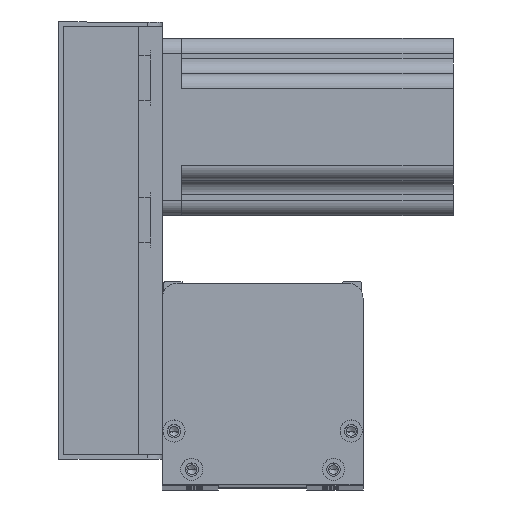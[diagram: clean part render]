
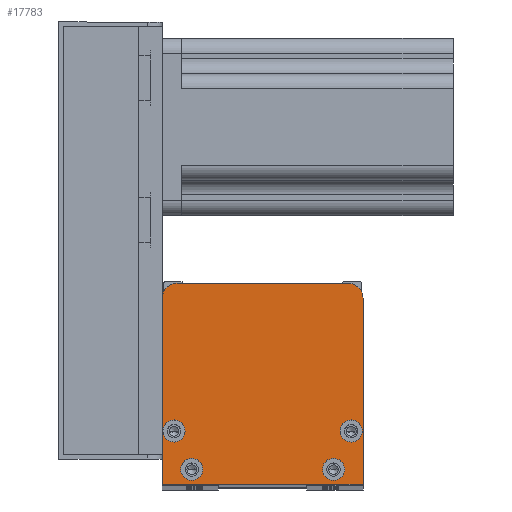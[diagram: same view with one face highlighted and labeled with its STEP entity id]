
A CAD part, top view. The second image highlights one B-rep face of the part: STEP entity #17783.
In plain terms, the highlighted planar face has unit normal (0, 0, 1) as drawn and (0, 0, -1) by its records, which use the part's own axes.
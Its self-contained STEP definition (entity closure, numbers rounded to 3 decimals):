
#43 = CARTESIAN_POINT ( 'NONE',  ( 68., 0., 0. ) ) ;
#72 = CARTESIAN_POINT ( 'NONE',  ( 68., 68., 0. ) ) ;
#83 = CARTESIAN_POINT ( 'NONE',  ( 0., 0., 0. ) ) ;
#94 = CARTESIAN_POINT ( 'NONE',  ( 68., 63., 0. ) ) ;
#663 = CARTESIAN_POINT ( 'NONE',  ( 63., 68., 0. ) ) ;
#1047 = AXIS2_PLACEMENT_3D ( 'NONE', #22007, #10575, #24081 ) ;
#1053 = FACE_BOUND ( 'NONE', #18833, .T. ) ;
#1251 = EDGE_CURVE ( 'NONE', #14463, #27652, #20963, .T. ) ;
#1417 = DIRECTION ( 'NONE',  ( -1., 0., 0. ) ) ;
#1700 = LINE ( 'NONE', #3826, #26793 ) ;
#1757 = CARTESIAN_POINT ( 'NONE',  ( 7.75, 18., 0. ) ) ;
#1935 = VERTEX_POINT ( 'NONE', #15410 ) ;
#2201 = DIRECTION ( 'NONE',  ( 0., 0., 1. ) ) ;
#2456 = DIRECTION ( 'NONE',  ( -1., 0., 0. ) ) ;
#2610 = EDGE_CURVE ( 'NONE', #27652, #14463, #6762, .T. ) ;
#2719 = ORIENTED_EDGE ( 'NONE', *, *, #15992, .F. ) ;
#2815 = FACE_BOUND ( 'NONE', #16933, .T. ) ;
#3012 = CIRCLE ( 'NONE', #22512, 3.75 ) ;
#3275 = VERTEX_POINT ( 'NONE', #13002 ) ;
#3403 = EDGE_CURVE ( 'NONE', #1935, #27878, #25762, .T. ) ;
#3610 = AXIS2_PLACEMENT_3D ( 'NONE', #10550, #19115, #1417 ) ;
#3743 = VERTEX_POINT ( 'NONE', #17726 ) ;
#3826 = CARTESIAN_POINT ( 'NONE',  ( 0., 0., 0. ) ) ;
#4189 = DIRECTION ( 'NONE',  ( -1., 0., 0. ) ) ;
#4223 = EDGE_LOOP ( 'NONE', ( #9486, #26319, #27322, #25000, #12390, #2719 ) ) ;
#4308 = LINE ( 'NONE', #43, #15612 ) ;
#4545 = CARTESIAN_POINT ( 'NONE',  ( 4., 18., 0. ) ) ;
#4589 = CIRCLE ( 'NONE', #7392, 3.75 ) ;
#4636 = DIRECTION ( 'NONE',  ( 0., 1., 0. ) ) ;
#5418 = LINE ( 'NONE', #72, #27292 ) ;
#6140 = LINE ( 'NONE', #17449, #13904 ) ;
#6227 = EDGE_CURVE ( 'NONE', #13279, #25009, #4308, .T. ) ;
#6667 = CARTESIAN_POINT ( 'NONE',  ( 13.75, 5., 0. ) ) ;
#6743 = CARTESIAN_POINT ( 'NONE',  ( 54.25, 5., 0. ) ) ;
#6762 = CIRCLE ( 'NONE', #9128, 3.75 ) ;
#6806 = DIRECTION ( 'NONE',  ( 1., 0., 0. ) ) ;
#6882 = VERTEX_POINT ( 'NONE', #8449 ) ;
#7011 = CARTESIAN_POINT ( 'NONE',  ( 5., 68., 0. ) ) ;
#7037 = DIRECTION ( 'NONE',  ( -1., 0., 0. ) ) ;
#7060 = VERTEX_POINT ( 'NONE', #6667 ) ;
#7090 = FACE_OUTER_BOUND ( 'NONE', #4223, .T. ) ;
#7315 = CARTESIAN_POINT ( 'NONE',  ( 68., 0., 0. ) ) ;
#7392 = AXIS2_PLACEMENT_3D ( 'NONE', #4545, #27131, #22607 ) ;
#7955 = DIRECTION ( 'NONE',  ( -1., 0., 0. ) ) ;
#7965 = EDGE_CURVE ( 'NONE', #3275, #19634, #8852, .T. ) ;
#8052 = DIRECTION ( 'NONE',  ( 0., 0., -1. ) ) ;
#8236 = VERTEX_POINT ( 'NONE', #663 ) ;
#8449 = CARTESIAN_POINT ( 'NONE',  ( 0.25, 18., 0. ) ) ;
#8852 = CIRCLE ( 'NONE', #27731, 5. ) ;
#9128 = AXIS2_PLACEMENT_3D ( 'NONE', #28459, #8052, #7955 ) ;
#9486 = ORIENTED_EDGE ( 'NONE', *, *, #19993, .F. ) ;
#9622 = CIRCLE ( 'NONE', #16026, 3.75 ) ;
#10222 = EDGE_CURVE ( 'NONE', #8236, #25009, #28839, .T. ) ;
#10528 = CARTESIAN_POINT ( 'NONE',  ( 58., 5., 0. ) ) ;
#10550 = CARTESIAN_POINT ( 'NONE',  ( 10., 5., 0. ) ) ;
#10575 = DIRECTION ( 'NONE',  ( 0., 0., -1. ) ) ;
#11081 = CIRCLE ( 'NONE', #1047, 3.75 ) ;
#11195 = PLANE ( 'NONE',  #22863 ) ;
#11226 = ORIENTED_EDGE ( 'NONE', *, *, #22704, .F. ) ;
#12390 = ORIENTED_EDGE ( 'NONE', *, *, #6227, .F. ) ;
#13002 = CARTESIAN_POINT ( 'NONE',  ( 0., 63., 0. ) ) ;
#13145 = VERTEX_POINT ( 'NONE', #1757 ) ;
#13279 = VERTEX_POINT ( 'NONE', #7315 ) ;
#13904 = VECTOR ( 'NONE', #6806, 1000. ) ;
#14463 = VERTEX_POINT ( 'NONE', #19228 ) ;
#14953 = AXIS2_PLACEMENT_3D ( 'NONE', #23342, #18875, #23442 ) ;
#15410 = CARTESIAN_POINT ( 'NONE',  ( 60.25, 18., 0. ) ) ;
#15552 = FACE_BOUND ( 'NONE', #19353, .T. ) ;
#15612 = VECTOR ( 'NONE', #4636, 1000. ) ;
#15869 = EDGE_CURVE ( 'NONE', #27247, #7060, #11081, .T. ) ;
#15992 = EDGE_CURVE ( 'NONE', #3743, #13279, #6140, .T. ) ;
#15996 = CARTESIAN_POINT ( 'NONE',  ( 64., 18., 0. ) ) ;
#16026 = AXIS2_PLACEMENT_3D ( 'NONE', #26574, #26478, #4189 ) ;
#16933 = EDGE_LOOP ( 'NONE', ( #23859, #17288 ) ) ;
#17079 = EDGE_CURVE ( 'NONE', #13145, #6882, #9622, .T. ) ;
#17288 = ORIENTED_EDGE ( 'NONE', *, *, #1251, .F. ) ;
#17311 = DIRECTION ( 'NONE',  ( 0., 0., -1. ) ) ;
#17449 = CARTESIAN_POINT ( 'NONE',  ( 68., 0., 0. ) ) ;
#17726 = CARTESIAN_POINT ( 'NONE',  ( 0., 0., 0. ) ) ;
#17783 = ADVANCED_FACE ( 'NONE', ( #1053, #27551, #15552, #2815, #7090 ), #11195, .F. ) ;
#17794 = AXIS2_PLACEMENT_3D ( 'NONE', #10528, #17311, #22059 ) ;
#18081 = DIRECTION ( 'NONE',  ( 1., 0., 0. ) ) ;
#18082 = EDGE_LOOP ( 'NONE', ( #22666, #20840 ) ) ;
#18833 = EDGE_LOOP ( 'NONE', ( #18916, #11226 ) ) ;
#18875 = DIRECTION ( 'NONE',  ( 0., 0., -1. ) ) ;
#18916 = ORIENTED_EDGE ( 'NONE', *, *, #3403, .F. ) ;
#19115 = DIRECTION ( 'NONE',  ( 0., 0., -1. ) ) ;
#19205 = CIRCLE ( 'NONE', #3610, 3.75 ) ;
#19228 = CARTESIAN_POINT ( 'NONE',  ( 61.75, 5., 0. ) ) ;
#19320 = DIRECTION ( 'NONE',  ( 0., 0., -1. ) ) ;
#19353 = EDGE_LOOP ( 'NONE', ( #28178, #27920 ) ) ;
#19634 = VERTEX_POINT ( 'NONE', #7011 ) ;
#19648 = EDGE_CURVE ( 'NONE', #6882, #13145, #4589, .T. ) ;
#19993 = EDGE_CURVE ( 'NONE', #3275, #3743, #1700, .T. ) ;
#20840 = ORIENTED_EDGE ( 'NONE', *, *, #17079, .F. ) ;
#20963 = CIRCLE ( 'NONE', #17794, 3.75 ) ;
#22007 = CARTESIAN_POINT ( 'NONE',  ( 10., 5., 0. ) ) ;
#22059 = DIRECTION ( 'NONE',  ( -1., 0., 0. ) ) ;
#22512 = AXIS2_PLACEMENT_3D ( 'NONE', #15996, #22619, #2456 ) ;
#22607 = DIRECTION ( 'NONE',  ( -1., 0., 0. ) ) ;
#22619 = DIRECTION ( 'NONE',  ( 0., 0., -1. ) ) ;
#22666 = ORIENTED_EDGE ( 'NONE', *, *, #19648, .F. ) ;
#22704 = EDGE_CURVE ( 'NONE', #27878, #1935, #3012, .T. ) ;
#22863 = AXIS2_PLACEMENT_3D ( 'NONE', #83, #2201, #18081 ) ;
#23126 = AXIS2_PLACEMENT_3D ( 'NONE', #23746, #26023, #27986 ) ;
#23342 = CARTESIAN_POINT ( 'NONE',  ( 63., 63., 0. ) ) ;
#23442 = DIRECTION ( 'NONE',  ( 1., 0., 0. ) ) ;
#23594 = EDGE_CURVE ( 'NONE', #7060, #27247, #19205, .T. ) ;
#23746 = CARTESIAN_POINT ( 'NONE',  ( 64., 18., 0. ) ) ;
#23859 = ORIENTED_EDGE ( 'NONE', *, *, #2610, .F. ) ;
#24081 = DIRECTION ( 'NONE',  ( -1., 0., 0. ) ) ;
#24498 = EDGE_CURVE ( 'NONE', #8236, #19634, #5418, .T. ) ;
#25000 = ORIENTED_EDGE ( 'NONE', *, *, #10222, .T. ) ;
#25009 = VERTEX_POINT ( 'NONE', #94 ) ;
#25762 = CIRCLE ( 'NONE', #23126, 3.75 ) ;
#26023 = DIRECTION ( 'NONE',  ( 0., 0., -1. ) ) ;
#26155 = CARTESIAN_POINT ( 'NONE',  ( 67.75, 18., 0. ) ) ;
#26319 = ORIENTED_EDGE ( 'NONE', *, *, #7965, .T. ) ;
#26333 = CARTESIAN_POINT ( 'NONE',  ( 5., 63., 0. ) ) ;
#26478 = DIRECTION ( 'NONE',  ( 0., 0., -1. ) ) ;
#26574 = CARTESIAN_POINT ( 'NONE',  ( 4., 18., 0. ) ) ;
#26793 = VECTOR ( 'NONE', #28885, 1000. ) ;
#27131 = DIRECTION ( 'NONE',  ( 0., 0., -1. ) ) ;
#27247 = VERTEX_POINT ( 'NONE', #28065 ) ;
#27292 = VECTOR ( 'NONE', #7037, 1000. ) ;
#27322 = ORIENTED_EDGE ( 'NONE', *, *, #24498, .F. ) ;
#27551 = FACE_BOUND ( 'NONE', #18082, .T. ) ;
#27652 = VERTEX_POINT ( 'NONE', #6743 ) ;
#27731 = AXIS2_PLACEMENT_3D ( 'NONE', #26333, #19320, #28399 ) ;
#27878 = VERTEX_POINT ( 'NONE', #26155 ) ;
#27920 = ORIENTED_EDGE ( 'NONE', *, *, #23594, .F. ) ;
#27986 = DIRECTION ( 'NONE',  ( -1., 0., 0. ) ) ;
#28065 = CARTESIAN_POINT ( 'NONE',  ( 6.25, 5., 0. ) ) ;
#28178 = ORIENTED_EDGE ( 'NONE', *, *, #15869, .F. ) ;
#28399 = DIRECTION ( 'NONE',  ( 1., 0., 0. ) ) ;
#28459 = CARTESIAN_POINT ( 'NONE',  ( 58., 5., 0. ) ) ;
#28839 = CIRCLE ( 'NONE', #14953, 5. ) ;
#28885 = DIRECTION ( 'NONE',  ( 0., -1., 0. ) ) ;
